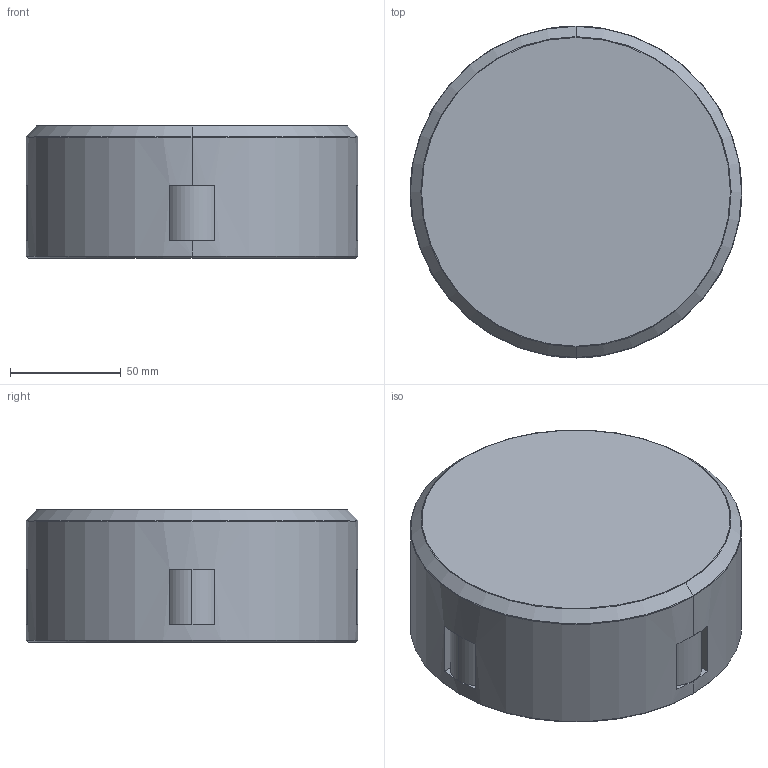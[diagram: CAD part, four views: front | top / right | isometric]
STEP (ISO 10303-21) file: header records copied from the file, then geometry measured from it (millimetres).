
FILE_DESCRIPTION (( 'STEP AP214' ), '1' );
FILE_NAME ('RAD_CRUX.STEP', '2022-07-25T14:37:21', ( '' ), ( '' ), 'SwSTEP 2.0', 'SolidWorks 2020', '' );
FILE_SCHEMA (( 'AUTOMOTIVE_DESIGN' ));
Length unit declared in the file: millimetre
Products named in the file (1): RAD_CRUX
Bounding box: 150 x 150 x 60 mm (x, y, z)
Volume: 259973.9 mm3; surface area: 118049.5 mm2
Topology: 5 solids, 5 shells, 50 faces, 118 edges, 76 vertices
Faces by surface type: plane 28, cylinder 14, cone 4, torus 4
Entity records: 1742 total; most frequent: DIRECTION 284, CARTESIAN_POINT 245, ORIENTED_EDGE 236, EDGE_CURVE 118, AXIS2_PLACEMENT_3D 115, VERTEX_POINT 76, CIRCLE 64, LINE 54
